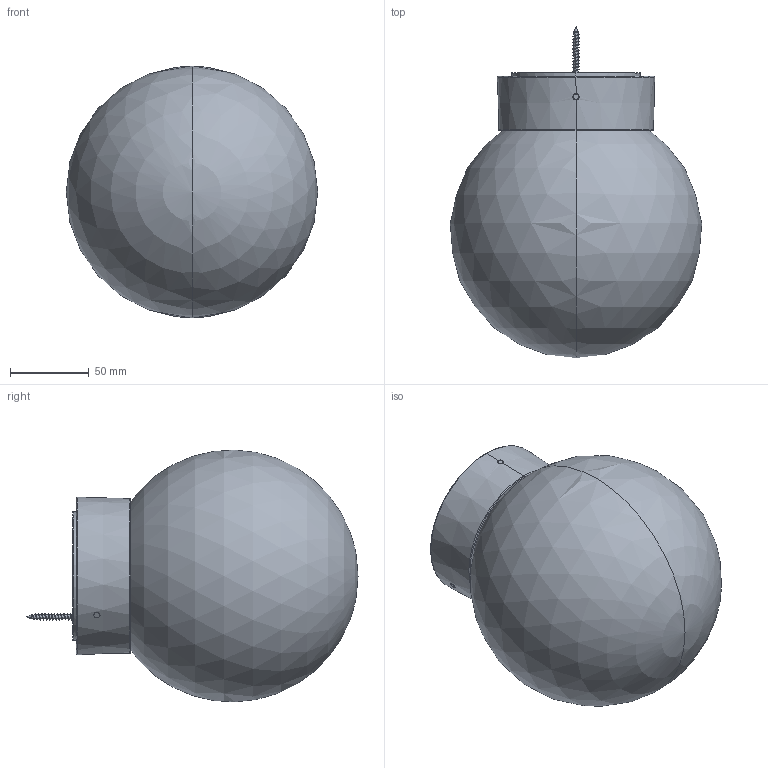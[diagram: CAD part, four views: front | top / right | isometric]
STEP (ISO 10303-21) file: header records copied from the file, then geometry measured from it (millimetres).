
FILE_DESCRIPTION((''),'2;1');
FILE_NAME('CEILING_SW0001','2026-02-03T17:07:58',('Piccioli'),(''),'CREO PARAMETRIC BY PTC INC, 2025010','CREO PARAMETRIC BY PTC INC, 2025010','');
FILE_SCHEMA(('CONFIG_CONTROL_DESIGN'));
Length unit declared in the file: millimetre
Products named in the file (1): CEILING_SW0001
Bounding box: 159.64 x 210.87 x 159.94 mm (x, y, z)
Surface area: 102370.1 mm2 (no closed solid volume)
Topology: 0 solids, 7 shells, 61 faces, 167 edges, 108 vertices
Faces by surface type: cylinder 28, torus 12, bspline 8, cone 6, plane 5, sphere 2
Entity records: 5972 total; most frequent: CARTESIAN_POINT 4549, ORIENTED_EDGE 303, DIRECTION 246, EDGE_CURVE 163, VERTEX_POINT 108, AXIS2_PLACEMENT_3D 102, B_SPLINE_CURVE_WITH_KNOTS 72, EDGE_LOOP 61
